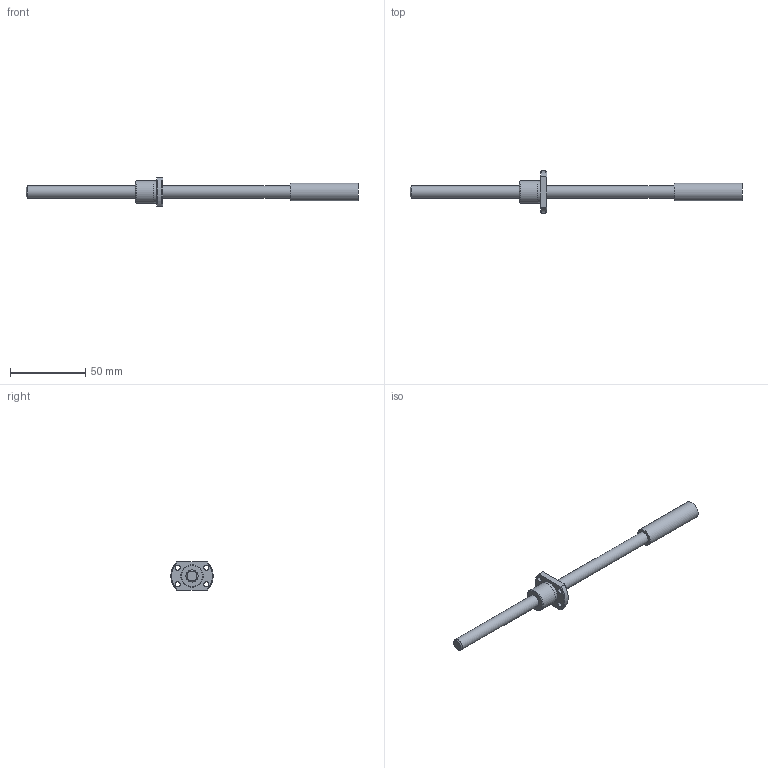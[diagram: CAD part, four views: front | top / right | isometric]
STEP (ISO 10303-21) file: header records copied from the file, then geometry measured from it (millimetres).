
FILE_DESCRIPTION(/* description */ ('STEP AP214'),/* implementation_level */ '2;1');
FILE_NAME(/* name */ 'SRT0802K-171R220C7A0X(A72.5None0X)',/* time_stamp */ '2026-08-04T20:00:29+02:00',/* author */ ('License CC BY-ND 4.0'),/* organization */ ('CADENAS'),/* preprocessor_version */ 'ST-DEVELOPER v20',/* originating_system */ 'PARTsolutions',/* authorisation */ ' ');
FILE_SCHEMA (('AUTOMOTIVE_DESIGN {1 0 10303 214 3 1 1}'));
Length unit declared in the file: millimetre
Products named in the file (3): SRT0802K-171R220C7A0X(A72.5None0X); 8ANone220; SR0802K_nut
Assembly tree (2 placements, depth 2):
  SRT0802K-171R220C7A0X(A72.5None0X)
    8ANone220
    SR0802K_nut
Bounding box: 220 x 27.9 x 19 mm (x, y, z)
Volume: 16967.7 mm3; surface area: 8648.4 mm2
Topology: 2 solids, 2 shells, 26 faces, 55 edges, 36 vertices
Faces by surface type: cylinder 11, plane 9, cone 6
Full cylindrical faces by diameter (mm): 3.4 x4, 8 x2, 11.7 x1, 14.6 x1, 15 x1
Entity records: 759 total; most frequent: CARTESIAN_POINT 133, DIRECTION 122, ORIENTED_EDGE 88, AXIS2_PLACEMENT_3D 57, EDGE_LOOP 50, FACE_BOUND 50, EDGE_CURVE 44, VERTEX_POINT 36
